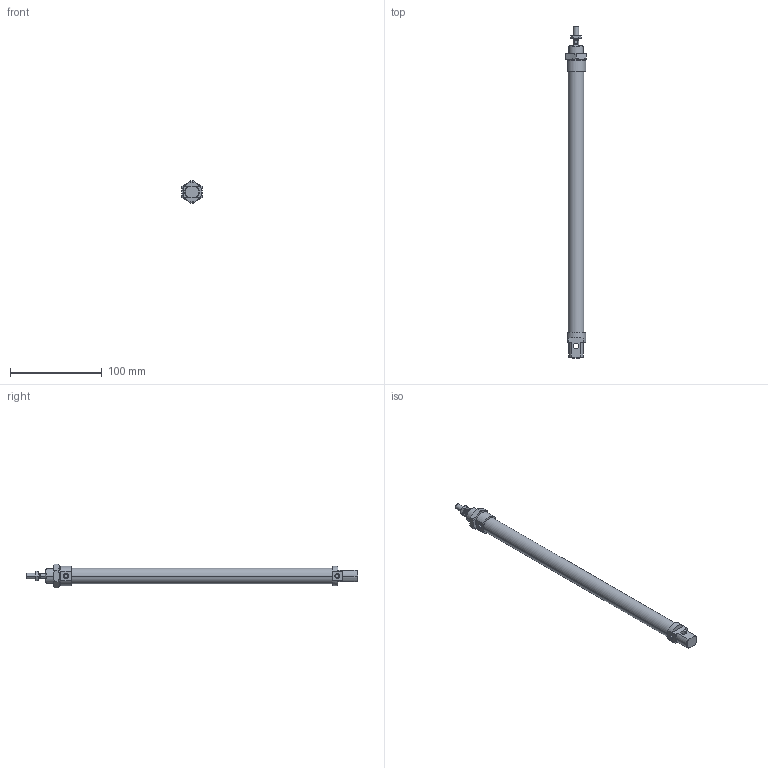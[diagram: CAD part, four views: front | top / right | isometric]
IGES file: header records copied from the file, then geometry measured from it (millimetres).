
Global section: file name: No Iges File Name specified; native system: AutoDesk Inventor R6.0; preprocessor: AutoDesk Inventor Iges Exporter R6.0; author: No Author specified; organization: No Organization specified; date: 20030407.191232; units: millimetre
Bounding box: 22 x 361 x 25.4 mm (x, y, z)
Volume: 80948.9 mm3; surface area: 31980.4 mm2
Topology: 4 solids, 4 shells, 121 faces, 268 edges, 162 vertices
Faces by surface type: plane 39, cone 38, bspline 20, cylinder 18, revolution 6
